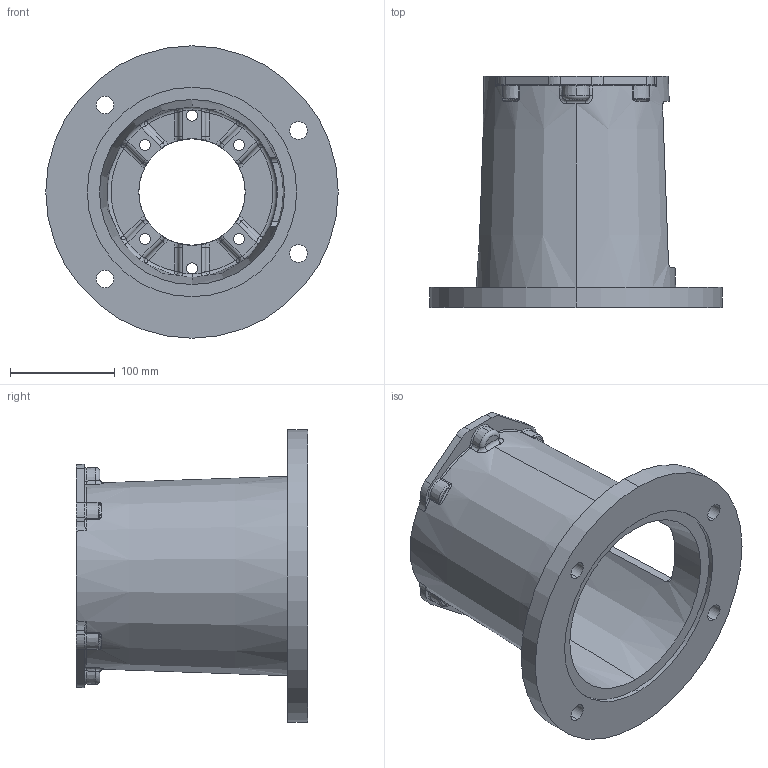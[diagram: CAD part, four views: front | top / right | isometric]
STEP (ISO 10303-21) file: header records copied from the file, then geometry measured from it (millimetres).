
FILE_DESCRIPTION (( 'STEP AP203' ), '1' );
FILE_NAME ('E787862B.STEP', '2014-11-04T15:52:42', ( '' ), ( '' ), 'SwSTEP 2.0', 'SolidWorks 2014', '' );
FILE_SCHEMA (( 'CONFIG_CONTROL_DESIGN' ));
Length unit declared in the file: inch
Products named in the file (1): E787862B
Bounding box: 279.4 x 220.73 x 279.4 mm (x, y, z)
Volume: 1603945 mm3; surface area: 348158.6 mm2
Topology: 1 solids, 1 shells, 354 faces, 907 edges, 543 vertices
Faces by surface type: torus 106, cylinder 86, bspline 64, plane 50, sphere 24, cone 24
Entity records: 14233 total; most frequent: CARTESIAN_POINT 5959, ORIENTED_EDGE 1790, DIRECTION 1736, EDGE_CURVE 895, AXIS2_PLACEMENT_3D 788, VERTEX_POINT 543, CIRCLE 497, EDGE_LOOP 378
